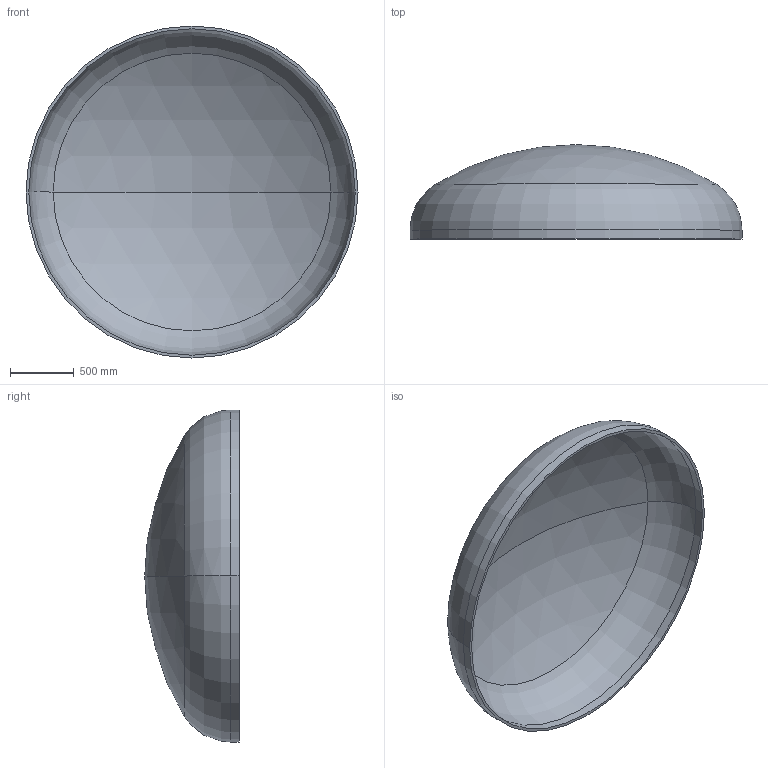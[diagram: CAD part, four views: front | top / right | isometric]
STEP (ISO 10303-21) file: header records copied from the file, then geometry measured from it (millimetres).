
FILE_DESCRIPTION (( 'STEP AP203' ), '1' );
FILE_NAME ('DIN 28013 Korbbogenform_-_Boden DIN 28013 - 2600 x 70 - I - s=22.step', '2016-07-01T16:00:09', ( '' ), ( '' ), 'SwSTEP 2.0', 'SolidWorks 2013', '' );
FILE_SCHEMA (( 'CONFIG_CONTROL_DESIGN' ));
Length unit declared in the file: millimetre
Products named in the file (1): DIN 28013 Korbbogenform_-_Boden DIN 28013 - 2600 x 70 - I - s=22
Bounding box: 2600 x 739.69 x 2600 mm (x, y, z)
Volume: 172414226.7 mm3; surface area: 15853207 mm2
Topology: 1 solids, 1 shells, 13 faces, 24 edges, 14 vertices
Faces by surface type: torus 4, cylinder 4, sphere 4, plane 1
Entity records: 407 total; most frequent: DIRECTION 72, CARTESIAN_POINT 52, ORIENTED_EDGE 48, AXIS2_PLACEMENT_3D 34, EDGE_CURVE 24, CIRCLE 20, EDGE_LOOP 14, VERTEX_POINT 14
